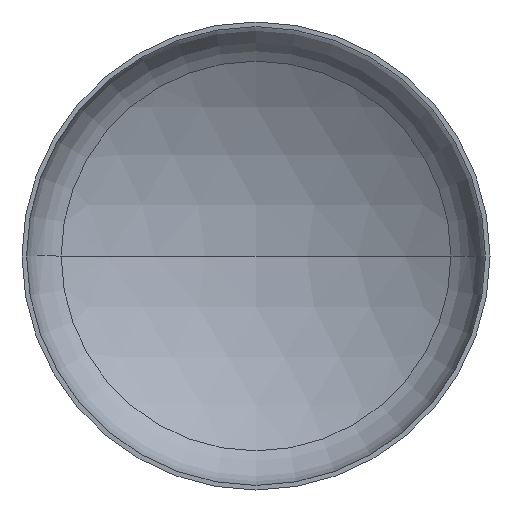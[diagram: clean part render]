
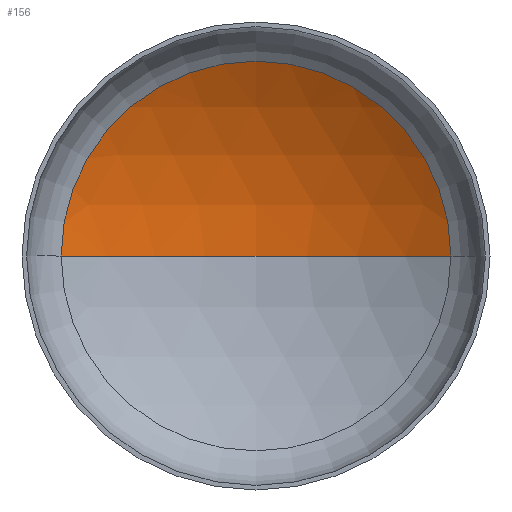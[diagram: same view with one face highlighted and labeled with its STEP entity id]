
A CAD part, front view. The second image highlights one B-rep face of the part: STEP entity #156.
In plain terms, the highlighted spherical face has radius 6000 mm.
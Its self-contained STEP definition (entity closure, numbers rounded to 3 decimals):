
#6 = FACE_OUTER_BOUND ( 'NONE', #206, .T. ) ;
#30 = AXIS2_PLACEMENT_3D ( 'NONE', #273, #255, #269 ) ;
#32 = VERTEX_POINT ( 'NONE', #237 ) ;
#48 = AXIS2_PLACEMENT_3D ( 'NONE', #157, #160, #291 ) ;
#49 = AXIS2_PLACEMENT_3D ( 'NONE', #201, #202, #183 ) ;
#51 = CARTESIAN_POINT ( 'NONE',  ( -3121.981, 1106.33, 0. ) ) ;
#53 = AXIS2_PLACEMENT_3D ( 'NONE', #163, #295, #293 ) ;
#101 = EDGE_CURVE ( 'NONE', #32, #387, #372, .T. ) ;
#102 = EDGE_CURVE ( 'NONE', #210, #32, #159, .T. ) ;
#106 = EDGE_CURVE ( 'NONE', #210, #387, #366, .T. ) ;
#133 = CARTESIAN_POINT ( 'NONE',  ( 0., 1982.539, 0. ) ) ;
#156 = ADVANCED_FACE ( 'NONE', ( #6 ), #404, .F. ) ;
#157 = CARTESIAN_POINT ( 'NONE',  ( 0., -4017.461, 0. ) ) ;
#159 = CIRCLE ( 'NONE', #49, 6000. ) ;
#160 = DIRECTION ( 'NONE',  ( 0., 0., 1. ) ) ;
#163 = CARTESIAN_POINT ( 'NONE',  ( 0., 1106.33, 0. ) ) ;
#183 = DIRECTION ( 'NONE',  ( -1., 0., 0. ) ) ;
#188 = ORIENTED_EDGE ( 'NONE', *, *, #101, .T. ) ;
#201 = CARTESIAN_POINT ( 'NONE',  ( 0., -4017.461, 0. ) ) ;
#202 = DIRECTION ( 'NONE',  ( 0., 0., -1. ) ) ;
#206 = EDGE_LOOP ( 'NONE', ( #214, #254, #188 ) ) ;
#210 = VERTEX_POINT ( 'NONE', #133 ) ;
#214 = ORIENTED_EDGE ( 'NONE', *, *, #106, .F. ) ;
#237 = CARTESIAN_POINT ( 'NONE',  ( 3121.981, 1106.33, 0. ) ) ;
#254 = ORIENTED_EDGE ( 'NONE', *, *, #102, .T. ) ;
#255 = DIRECTION ( 'NONE',  ( 0., 0., -1. ) ) ;
#269 = DIRECTION ( 'NONE',  ( -1., 0., 0. ) ) ;
#273 = CARTESIAN_POINT ( 'NONE',  ( 0., -4017.461, 0. ) ) ;
#291 = DIRECTION ( 'NONE',  ( 1., 0., 0. ) ) ;
#293 = DIRECTION ( 'NONE',  ( 1., 0., 0. ) ) ;
#295 = DIRECTION ( 'NONE',  ( 0., -1., 0. ) ) ;
#366 = CIRCLE ( 'NONE', #48, 6000. ) ;
#372 = CIRCLE ( 'NONE', #53, 3121.981 ) ;
#387 = VERTEX_POINT ( 'NONE', #51 ) ;
#404 = SPHERICAL_SURFACE ( 'NONE', #30, 6000. ) ;
